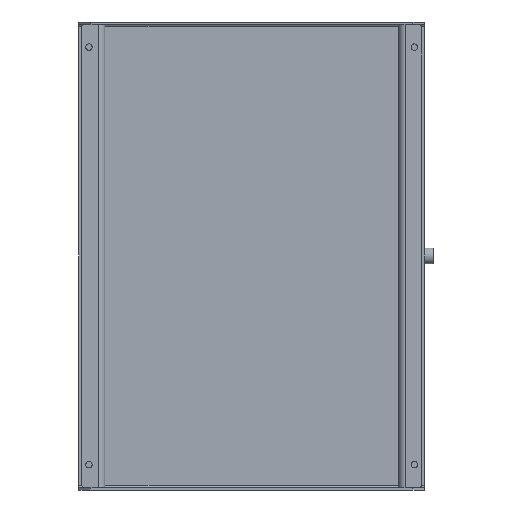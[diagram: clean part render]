
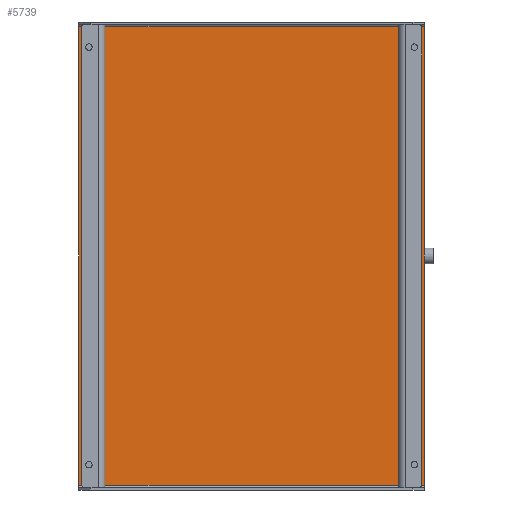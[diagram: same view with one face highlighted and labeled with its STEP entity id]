
A CAD part, front view. The second image highlights one B-rep face of the part: STEP entity #5739.
In plain terms, the highlighted planar face has unit normal (0, -1, 0).
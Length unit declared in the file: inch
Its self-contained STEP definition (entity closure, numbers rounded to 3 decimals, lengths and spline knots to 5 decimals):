
#15 = EDGE_LOOP ( 'NONE', ( #84461, #72130, #21910, #31130 ) ) ;
#2374 = LINE ( 'NONE', #83023, #22598 ) ;
#3427 = CARTESIAN_POINT ( 'NONE',  ( -33.53315, -12.6072, -14.36487 ) ) ;
#3732 = DIRECTION ( 'NONE',  ( 0., -1., 0. ) ) ;
#5292 = LINE ( 'NONE', #41065, #70800 ) ;
#5739 = ADVANCED_FACE ( 'NONE', ( #86486 ), #71050, .T. ) ;
#11137 = CARTESIAN_POINT ( 'NONE',  ( -3.53315, -12.6072, -13.93557 ) ) ;
#13064 = VECTOR ( 'NONE', #76453, 39.37008 ) ;
#13260 = VECTOR ( 'NONE', #65189, 39.37008 ) ;
#15103 = VERTEX_POINT ( 'NONE', #78733 ) ;
#21910 = ORIENTED_EDGE ( 'NONE', *, *, #44785, .F. ) ;
#22540 = AXIS2_PLACEMENT_3D ( 'NONE', #3427, #3732, #51170 ) ;
#22598 = VECTOR ( 'NONE', #49869, 39.37008 ) ;
#29503 = CARTESIAN_POINT ( 'NONE',  ( -33.53315, -12.6072, 25.83083 ) ) ;
#31130 = ORIENTED_EDGE ( 'NONE', *, *, #38427, .F. ) ;
#36640 = VERTEX_POINT ( 'NONE', #63475 ) ;
#38427 = EDGE_CURVE ( 'NONE', #36640, #80478, #66930, .T. ) ;
#41065 = CARTESIAN_POINT ( 'NONE',  ( -3.53315, -12.6072, 26.26013 ) ) ;
#41369 = EDGE_CURVE ( 'NONE', #56368, #15103, #65084, .T. ) ;
#44785 = EDGE_CURVE ( 'NONE', #80478, #56368, #5292, .T. ) ;
#46363 = CARTESIAN_POINT ( 'NONE',  ( -3.53315, -12.6072, 25.83083 ) ) ;
#49869 = DIRECTION ( 'NONE',  ( 0., 0., 1. ) ) ;
#51170 = DIRECTION ( 'NONE',  ( 0., 0., -1. ) ) ;
#56368 = VERTEX_POINT ( 'NONE', #75527 ) ;
#56491 = EDGE_CURVE ( 'NONE', #15103, #36640, #2374, .T. ) ;
#63475 = CARTESIAN_POINT ( 'NONE',  ( -33.53315, -12.6072, 25.83083 ) ) ;
#65084 = LINE ( 'NONE', #11137, #13260 ) ;
#65189 = DIRECTION ( 'NONE',  ( -1., 0., 0. ) ) ;
#66930 = LINE ( 'NONE', #29503, #13064 ) ;
#70800 = VECTOR ( 'NONE', #81290, 39.37008 ) ;
#71050 = PLANE ( 'NONE',  #22540 ) ;
#72130 = ORIENTED_EDGE ( 'NONE', *, *, #41369, .F. ) ;
#75527 = CARTESIAN_POINT ( 'NONE',  ( -3.53315, -12.6072, -13.93557 ) ) ;
#76453 = DIRECTION ( 'NONE',  ( 1., 0., 0. ) ) ;
#78733 = CARTESIAN_POINT ( 'NONE',  ( -33.53315, -12.6072, -13.93557 ) ) ;
#80478 = VERTEX_POINT ( 'NONE', #46363 ) ;
#81290 = DIRECTION ( 'NONE',  ( 0., 0., -1. ) ) ;
#83023 = CARTESIAN_POINT ( 'NONE',  ( -33.53315, -12.6072, 26.26013 ) ) ;
#84461 = ORIENTED_EDGE ( 'NONE', *, *, #56491, .F. ) ;
#86486 = FACE_OUTER_BOUND ( 'NONE', #15, .T. ) ;
